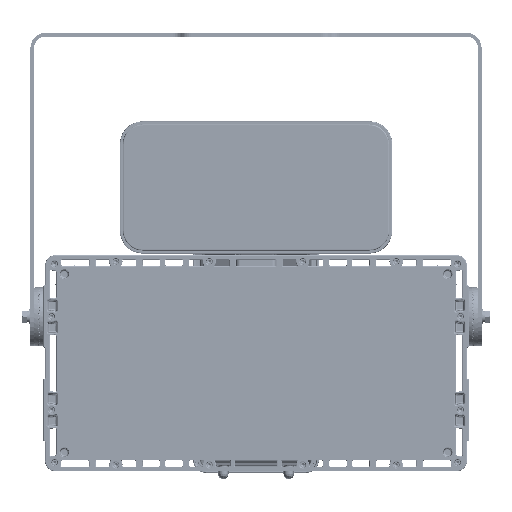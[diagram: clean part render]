
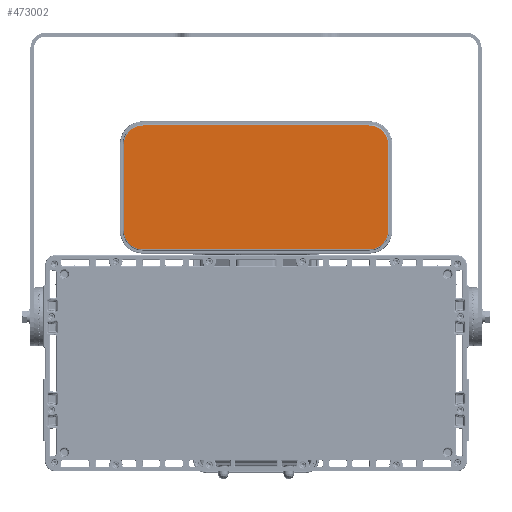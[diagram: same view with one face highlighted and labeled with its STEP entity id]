
A CAD part, front view. The second image highlights one B-rep face of the part: STEP entity #473002.
In plain terms, the highlighted planar face has unit normal (0, -1, 0).
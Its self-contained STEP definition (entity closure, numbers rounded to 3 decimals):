
#144368=DIRECTION('',(-1.,0.,0.));
#144369=VECTOR('',#144368,9.68);
#144370=CARTESIAN_POINT('',(4.84,-0.917,10.178));
#144371=LINE('',#144370,#144369);
#144372=CARTESIAN_POINT('',(4.84,-0.917,9.365));
#144373=DIRECTION('',(0.,-1.,0.));
#144374=DIRECTION('',(1.,0.,0.));
#144375=AXIS2_PLACEMENT_3D('',#144372,#144373,#144374);
#144377=DIRECTION('',(0.,0.,1.));
#144378=VECTOR('',#144377,3.68);
#144379=CARTESIAN_POINT('',(5.653,-0.917,5.685));
#144380=LINE('',#144379,#144378);
#144381=CARTESIAN_POINT('',(4.84,-0.917,5.685));
#144382=DIRECTION('',(0.,-1.,0.));
#144383=DIRECTION('',(0.,0.,-1.));
#144384=AXIS2_PLACEMENT_3D('',#144381,#144382,#144383);
#144386=DIRECTION('',(1.,0.,0.));
#144387=VECTOR('',#144386,9.68);
#144388=CARTESIAN_POINT('',(-4.84,-0.917,4.872));
#144389=LINE('',#144388,#144387);
#144390=CARTESIAN_POINT('',(-4.84,-0.917,5.685));
#144391=DIRECTION('',(0.,-1.,0.));
#144392=DIRECTION('',(-1.,0.,0.));
#144393=AXIS2_PLACEMENT_3D('',#144390,#144391,#144392);
#144395=DIRECTION('',(0.,0.,-1.));
#144396=VECTOR('',#144395,3.68);
#144397=CARTESIAN_POINT('',(-5.653,-0.917,9.365));
#144398=LINE('',#144397,#144396);
#144399=CARTESIAN_POINT('',(-4.84,-0.917,9.365));
#144400=DIRECTION('',(0.,-1.,0.));
#144401=DIRECTION('',(0.,0.,1.));
#144402=AXIS2_PLACEMENT_3D('',#144399,#144400,#144401);
#291252=CARTESIAN_POINT('',(4.84,-0.917,10.178));
#291253=CARTESIAN_POINT('',(-4.84,-0.917,10.178));
#291254=VERTEX_POINT('',#291252);
#291255=VERTEX_POINT('',#291253);
#291260=CARTESIAN_POINT('',(-5.653,-0.917,9.365));
#291261=VERTEX_POINT('',#291260);
#291264=CARTESIAN_POINT('',(-5.653,-0.917,5.685));
#291265=VERTEX_POINT('',#291264);
#291268=CARTESIAN_POINT('',(-4.84,-0.917,4.872));
#291269=VERTEX_POINT('',#291268);
#291272=CARTESIAN_POINT('',(4.84,-0.917,4.872));
#291273=VERTEX_POINT('',#291272);
#291276=CARTESIAN_POINT('',(5.653,-0.917,5.685));
#291277=VERTEX_POINT('',#291276);
#291280=CARTESIAN_POINT('',(5.653,-0.917,9.365));
#291281=VERTEX_POINT('',#291280);
#472980=CARTESIAN_POINT('',(0.,-0.917,7.525));
#472981=DIRECTION('',(0.,-1.,0.));
#472982=DIRECTION('',(-1.,0.,0.));
#472983=AXIS2_PLACEMENT_3D('',#472980,#472981,#472982);
#472984=PLANE('',#472983);
#472986=ORIENTED_EDGE('',*,*,#472985,.F.);
#472987=ORIENTED_EDGE('',*,*,#472970,.F.);
#472989=ORIENTED_EDGE('',*,*,#472988,.F.);
#472991=ORIENTED_EDGE('',*,*,#472990,.F.);
#472993=ORIENTED_EDGE('',*,*,#472992,.F.);
#472995=ORIENTED_EDGE('',*,*,#472994,.F.);
#472997=ORIENTED_EDGE('',*,*,#472996,.F.);
#472999=ORIENTED_EDGE('',*,*,#472998,.F.);
#473000=EDGE_LOOP('',(#472986,#472987,#472989,#472991,#472993,#472995,#472997,
#472999));
#473001=FACE_OUTER_BOUND('',#473000,.F.);
#473002=ADVANCED_FACE('',(#473001),#472984,.T.);
#144376=CIRCLE('',#144375,0.813);
#144385=CIRCLE('',#144384,0.813);
#144394=CIRCLE('',#144393,0.813);
#144403=CIRCLE('',#144402,0.813);
#472970=EDGE_CURVE('',#291281,#291254,#144376,.T.);
#472985=EDGE_CURVE('',#291254,#291255,#144371,.T.);
#472988=EDGE_CURVE('',#291277,#291281,#144380,.T.);
#472990=EDGE_CURVE('',#291273,#291277,#144385,.T.);
#472992=EDGE_CURVE('',#291269,#291273,#144389,.T.);
#472994=EDGE_CURVE('',#291265,#291269,#144394,.T.);
#472996=EDGE_CURVE('',#291261,#291265,#144398,.T.);
#472998=EDGE_CURVE('',#291255,#291261,#144403,.T.);
